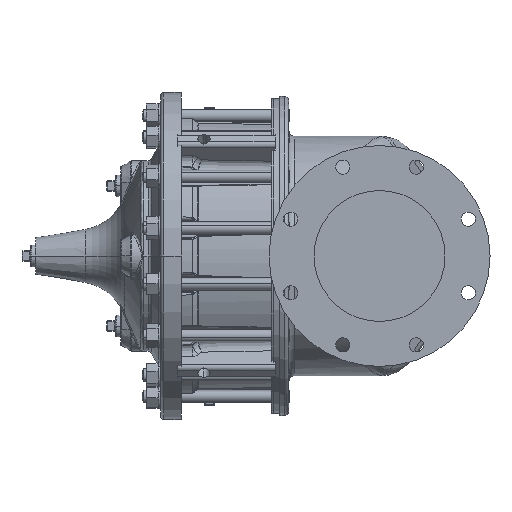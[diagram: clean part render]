
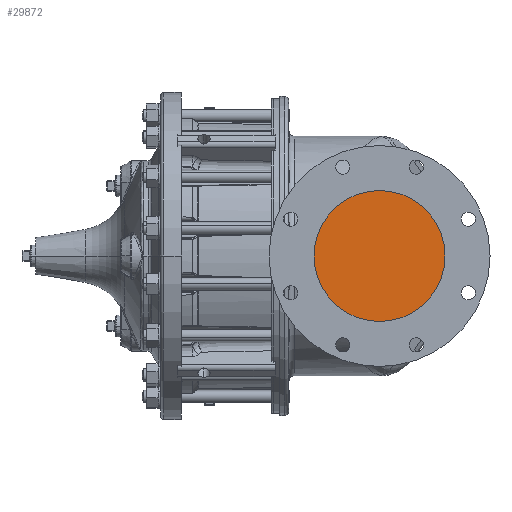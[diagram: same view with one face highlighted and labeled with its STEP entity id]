
A CAD part, left-side view. The second image highlights one B-rep face of the part: STEP entity #29872.
In plain terms, the highlighted planar face has unit normal (-1, 0, 0).
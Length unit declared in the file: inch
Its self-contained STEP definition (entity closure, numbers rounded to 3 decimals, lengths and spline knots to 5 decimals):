
#640 = EDGE_CURVE ( 'NONE', #31293, #50319, #8238, .T. ) ;
#8238 = CIRCLE ( 'NONE', #9400, 4. ) ;
#9400 = AXIS2_PLACEMENT_3D ( 'NONE', #45327, #21896, #49291 ) ;
#9537 = EDGE_CURVE ( 'NONE', #50319, #31293, #18919, .T. ) ;
#9650 = DIRECTION ( 'NONE',  ( 0., 0., 1. ) ) ;
#11608 = AXIS2_PLACEMENT_3D ( 'NONE', #38409, #15022, #42360 ) ;
#13392 = PLANE ( 'NONE',  #36009 ) ;
#14224 = CARTESIAN_POINT ( 'NONE',  ( -9.6875, 0., 4. ) ) ;
#15022 = DIRECTION ( 'NONE',  ( -1., 0., 0. ) ) ;
#18919 = CIRCLE ( 'NONE', #11608, 4. ) ;
#21896 = DIRECTION ( 'NONE',  ( -1., 0., 0. ) ) ;
#22889 = EDGE_LOOP ( 'NONE', ( #46077, #49270 ) ) ;
#29075 = CARTESIAN_POINT ( 'NONE',  ( -9.6875, 0., 0. ) ) ;
#29872 = ADVANCED_FACE ( 'NONE', ( #39206 ), #13392, .T. ) ;
#31293 = VERTEX_POINT ( 'NONE', #14224 ) ;
#32991 = DIRECTION ( 'NONE',  ( -1., 0., 0. ) ) ;
#33963 = CARTESIAN_POINT ( 'NONE',  ( -9.6875, 0., -4. ) ) ;
#36009 = AXIS2_PLACEMENT_3D ( 'NONE', #29075, #32991, #9650 ) ;
#38409 = CARTESIAN_POINT ( 'NONE',  ( -9.6875, 0., 0. ) ) ;
#39206 = FACE_OUTER_BOUND ( 'NONE', #22889, .T. ) ;
#42360 = DIRECTION ( 'NONE',  ( 0., 0., 1. ) ) ;
#45327 = CARTESIAN_POINT ( 'NONE',  ( -9.6875, 0., 0. ) ) ;
#46077 = ORIENTED_EDGE ( 'NONE', *, *, #640, .T. ) ;
#49270 = ORIENTED_EDGE ( 'NONE', *, *, #9537, .T. ) ;
#49291 = DIRECTION ( 'NONE',  ( 0., 0., 1. ) ) ;
#50319 = VERTEX_POINT ( 'NONE', #33963 ) ;
